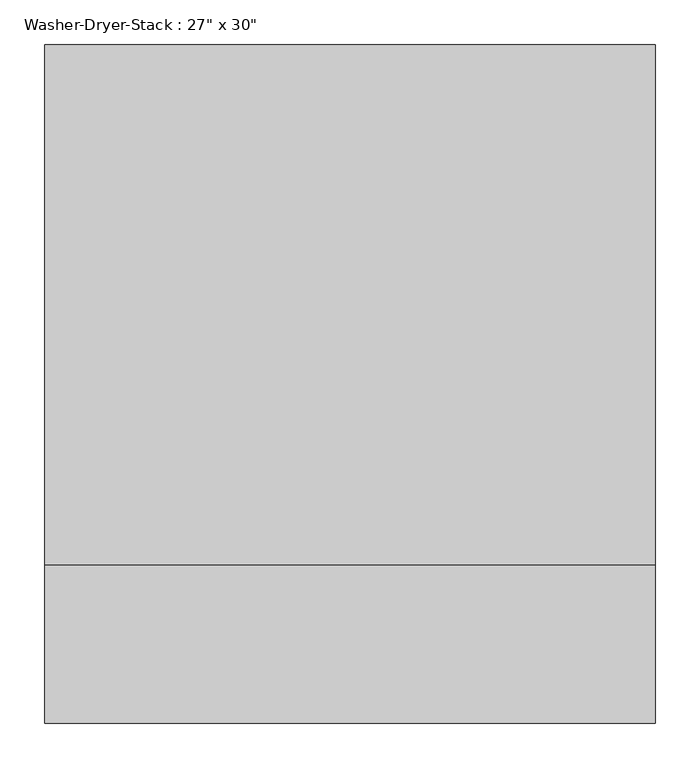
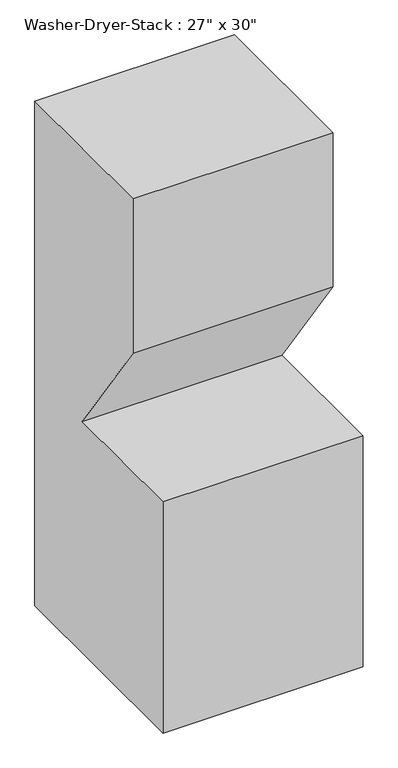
"""IFC4 building model written with IfcOpenShell, lengths in millimetres: proxy geometry."""

import ifcopenshell
import ifcopenshell.guid

model = None  # the IFC model being written
_history = None  # IfcOwnerHistory: only IFC2X3 demands one
_inside = {}  # id of a spatial element -> (the spatial element, [elements in it])
_under = {}  # id of a project, library or spatial element -> (it, [spatial elements below it])
_declared = {}  # id of a project -> (the project, [libraries it declares])
_typed = {}  # id of a type object -> (the type object, [elements of that type])
_made_of = {}  # id of a material, layer set ... -> (it, [elements and type objects made of it])


def new_model(schema):
    """Start an empty IFC model of exactly this schema.

    Asked for "IFC4X3", IfcOpenShell would pick the latest addendum, in which some entities
    have other attributes; the version numbers below select the first issue.
    IFC2X3 requires an IfcOwnerHistory on every rooted entity: one is made here for all.
    """
    global model, _history
    if schema == "IFC4X3":
        model = ifcopenshell.file(schema_version=(4, 3, 0, 0))
    else:
        model = ifcopenshell.file(schema=schema)
    _inside.clear()
    _under.clear()
    _declared.clear()
    _typed.clear()
    _made_of.clear()
    _history = None
    if model.schema == "IFC2X3":
        org = make("IfcOrganization", Name="unknown")
        user = make(
            "IfcPersonAndOrganization",
            ThePerson=make("IfcPerson", FamilyName="unknown"),
            TheOrganization=org,
        )
        app = make(
            "IfcApplication",
            ApplicationDeveloper=org,
            Version="unknown",
            ApplicationFullName="unknown",
            ApplicationIdentifier="unknown",
        )
        _history = make(
            "IfcOwnerHistory",
            OwningUser=user,
            OwningApplication=app,
            ChangeAction="ADDED",
            CreationDate=0,
        )
    return model


def make(cls, **values):
    """One entity of the class cls with the attributes given. An attribute that is None is left unset."""
    return model.create_entity(
        cls, **{name: value for name, value in values.items() if value is not None}
    )


def rooted(cls, **values):
    """An entity with a GlobalId (a new one), such as an element, a storey or a relation."""
    return make(cls, GlobalId=ifcopenshell.guid.new(), OwnerHistory=_history, **values)


def si_unit(unit_type, name, prefix=None):
    """IfcSIUnit, for example si_unit("LENGTHUNIT", "METRE", prefix="MILLI")."""
    return make("IfcSIUnit", UnitType=unit_type, Prefix=prefix, Name=name)


def assignment(units):
    """IfcUnitAssignment: the units of a project."""
    return None if units is None else make("IfcUnitAssignment", Units=units)


def point(xyz):
    """IfcCartesianPoint."""
    return None if xyz is None else make("IfcCartesianPoint", Coordinates=xyz)


def direction(xyz):
    """IfcDirection."""
    return None if xyz is None else make("IfcDirection", DirectionRatios=xyz)


def frame(location, z_axis=None, x_axis=None):
    """IfcAxis2Placement3D, a coordinate frame: its origin and axes. An axis left out is left unset."""
    return make(
        "IfcAxis2Placement3D",
        Location=point(location),
        Axis=direction(z_axis),
        RefDirection=direction(x_axis),
    )


def origin():
    """The frame at (0, 0, 0) with its axes left unset."""
    return frame((0.0, 0.0, 0.0))


def place(relative_to, where):
    """IfcLocalPlacement: puts the frame where relative to a parent placement (None: the world)."""
    return make(
        "IfcLocalPlacement", PlacementRelTo=relative_to, RelativePlacement=where
    )


def context(
    kind, dimensions, precision=None, world=None, true_north=None, identifier=None
):
    """IfcGeometricRepresentationContext, for example the 3D "Model" context."""
    return make(
        "IfcGeometricRepresentationContext",
        ContextIdentifier=identifier,
        ContextType=kind,
        CoordinateSpaceDimension=dimensions,
        Precision=precision,
        WorldCoordinateSystem=world,
        TrueNorth=true_north,
    )


def project(units=None, contexts=None):
    """IfcProject with its units and contexts."""
    return rooted(
        "IfcProject",
        Name="project",
        RepresentationContexts=contexts,
        UnitsInContext=assignment(units),
    )


def spatial(cls, under=None, at=None, **own):
    """A site, building, storey or space (cls), placed at a placement, below another one or the project."""
    s = rooted(cls, ObjectPlacement=at, **own)
    if under is not None:
        _under.setdefault(under.id(), (under, []))[1].append(s)
    return s


def polyline(points):
    """IfcPolyline through the points."""
    return make("IfcPolyline", Points=[point(p) for p in points])


def outline(outer, holes=None, kind="AREA"):
    """IfcArbitraryClosedProfileDef: a profile drawn as a closed curve; with holes, ...WithVoids."""
    if holes is None:
        return make("IfcArbitraryClosedProfileDef", ProfileType=kind, OuterCurve=outer)
    return make(
        "IfcArbitraryProfileDefWithVoids",
        ProfileType=kind,
        OuterCurve=outer,
        InnerCurves=holes,
    )


def extrude(swept, where, along, depth):
    """IfcExtrudedAreaSolid: the profile swept, set in the frame where, extruded along a direction by depth."""
    return make(
        "IfcExtrudedAreaSolid",
        SweptArea=swept,
        Position=where,
        ExtrudedDirection=direction(along),
        Depth=depth,
    )


def shape(context_of_items, identifier, shape_type, items):
    """IfcShapeRepresentation: the items that make up one representation, for example the "Body"."""
    return make(
        "IfcShapeRepresentation",
        ContextOfItems=context_of_items,
        RepresentationIdentifier=identifier,
        RepresentationType=shape_type,
        Items=items,
    )


def source(mapping_origin, context_of_items, identifier, shape_type, items):
    """IfcRepresentationMap: a shape defined once, which mapped items show again and again."""
    return make(
        "IfcRepresentationMap",
        MappingOrigin=mapping_origin,
        MappedRepresentation=shape(context_of_items, identifier, shape_type, items),
    )


def transform(
    local_origin,
    x_axis=None,
    y_axis=None,
    z_axis=None,
    scale=None,
    scale2=None,
    scale3=None,
    uniform=True,
):
    """IfcCartesianTransformationOperator3D, or its non-uniform kind. x_axis, y_axis, z_axis: its Axis1, 2, 3."""
    if uniform:
        return make(
            "IfcCartesianTransformationOperator3D",
            Axis1=direction(x_axis),
            Axis2=direction(y_axis),
            LocalOrigin=point(local_origin),
            Scale=scale,
            Axis3=direction(z_axis),
        )
    return make(
        "IfcCartesianTransformationOperator3DnonUniform",
        Axis1=direction(x_axis),
        Axis2=direction(y_axis),
        LocalOrigin=point(local_origin),
        Scale=scale,
        Axis3=direction(z_axis),
        Scale2=scale2,
        Scale3=scale3,
    )


def mapped(mapping_source, mapping_target):
    """IfcMappedItem: shows the shape of a source again, moved by a transform."""
    return make(
        "IfcMappedItem", MappingSource=mapping_source, MappingTarget=mapping_target
    )


def made_of(thing, what):
    """Note that an element or type object is made of a material, layer set ...; save() writes the relation."""
    if what is not None:
        _made_of.setdefault(what.id(), (what, []))[1].append(thing)
    return thing


def element(
    cls,
    number,
    at=None,
    inside=None,
    cuts=None,
    type_object=None,
    material=None,
    context=None,
    identifier="Body",
    shape_type=None,
    held_by="IfcProductDefinitionShape",
    body=None,
    shapes=None,
    **own,
):
    """One element of the class cls, such as IfcWall. Its Tag is "e" and its number.

    at: its placement. inside: the storey or other place that contains it. cuts: it is an
    opening in that element (IfcRelVoidsElement). A single representation is given by context,
    identifier, shape_type and body (its items); several are given by shapes. held_by: the class
    of the entity that holds the representations. save() writes the other relations.
    """
    e = rooted(cls, Tag="e%d" % number, ObjectPlacement=at, **own)
    if body is not None:
        shapes = [shape(context, identifier, shape_type, body)]
    if shapes is not None:
        e.Representation = make(held_by, Representations=shapes)
    if inside is not None:
        _inside.setdefault(inside.id(), (inside, []))[1].append(e)
    if cuts is not None:
        rooted(
            "IfcRelVoidsElement", RelatingBuildingElement=cuts, RelatedOpeningElement=e
        )
    if type_object is not None:
        _typed.setdefault(type_object.id(), (type_object, []))[1].append(e)
    return made_of(e, material)


def aggregate(whole, parts):
    """IfcRelAggregates: a whole, such as a stair, and the parts it consists of."""
    return rooted("IfcRelAggregates", RelatingObject=whole, RelatedObjects=parts)


def save(model, path):
    """Write the relations noted so far, then the file.

    IfcRelAggregates (storeys below a building ...), IfcRelContainedInSpatialStructure (elements
    in a storey), IfcRelDefinesByType, IfcRelAssociatesMaterial and IfcRelDeclares: one each for
    every whole, place, type object, material and project.
    """
    for whole, parts in _under.values():
        aggregate(whole, parts)
    for where, things in _inside.values():
        rooted(
            "IfcRelContainedInSpatialStructure",
            RelatedElements=things,
            RelatingStructure=where,
        )
    for kind, things in _typed.values():
        rooted("IfcRelDefinesByType", RelatedObjects=things, RelatingType=kind)
    for what, things in _made_of.values():
        rooted("IfcRelAssociatesMaterial", RelatedObjects=things, RelatingMaterial=what)
    for by, libraries in _declared.values():
        rooted("IfcRelDeclares", RelatingContext=by, RelatedDefinitions=libraries)
    model.write(path)


def proxy_5ec56aa7(model_context):
    return source(origin(), model_context, "Body", "SweptSolid", [
        extrude(outline(polyline([(-381.0, 0.0), (-381.0, 838.2), (99.149615, 838.2), (-203.2, 1270.0), (-203.2, 1828.8), (381.0, 1828.8), (381.0, 0.0), (-381.0, 0.0)])), frame((-342.9, 0.0, 0.0), z_axis=(1.0, 0.0, 0.0), x_axis=(0.0, 1.0, 0.0)), (0.0, 0.0, 1.0), 685.8),
    ])


if __name__ == "__main__":
    model = new_model("IFC4")
    model_context = context("Model", 3, world=origin())
    ifc_project = project(units=[si_unit("LENGTHUNIT", "METRE", prefix="MILLI")], contexts=[model_context])
    site = spatial("IfcSite", under=ifc_project)
    building = spatial("IfcBuilding", under=site)
    placement = place(None, origin())
    proxy_shape = proxy_5ec56aa7(model_context)
    element("IfcBuildingElementProxy", 1, Name="Washer-Dryer-Stack : 27\" x 30\"", ObjectType="Washer-Dryer-Stack : 27\" x 30\"", at=placement, inside=building, context=model_context, shape_type="MappedRepresentation", body=[
        mapped(proxy_shape, transform((0.0, 0.0, 0.0), x_axis=(1.0, 0.0, 0.0), y_axis=(0.0, 1.0, 0.0), z_axis=(0.0, 0.0, 1.0))),
    ])
    save(model, "model.ifc")
